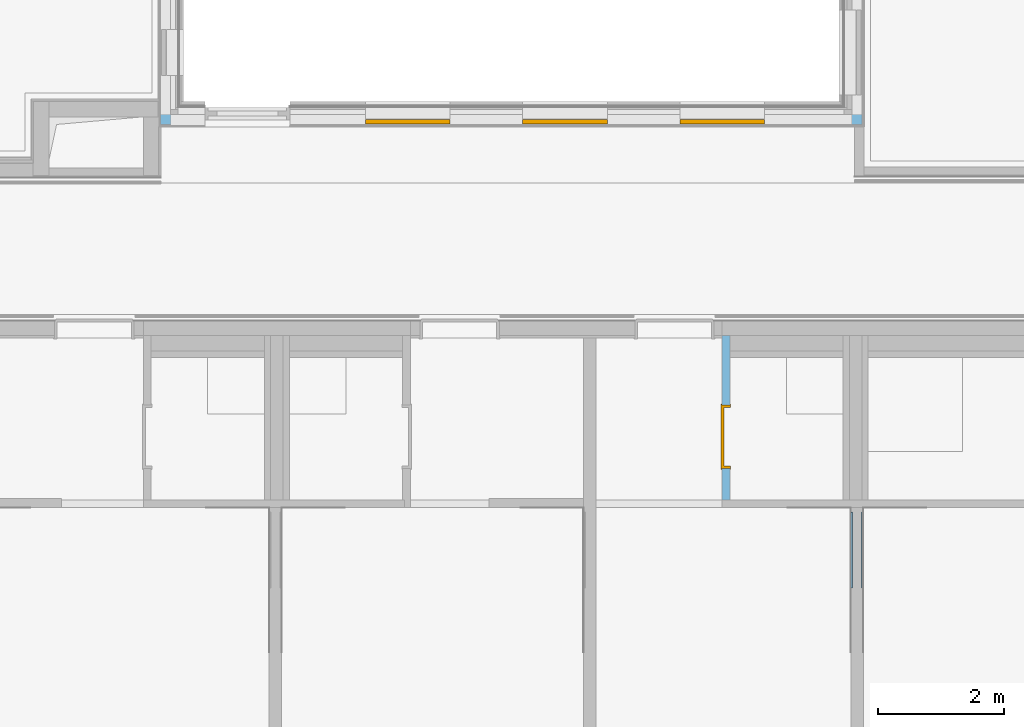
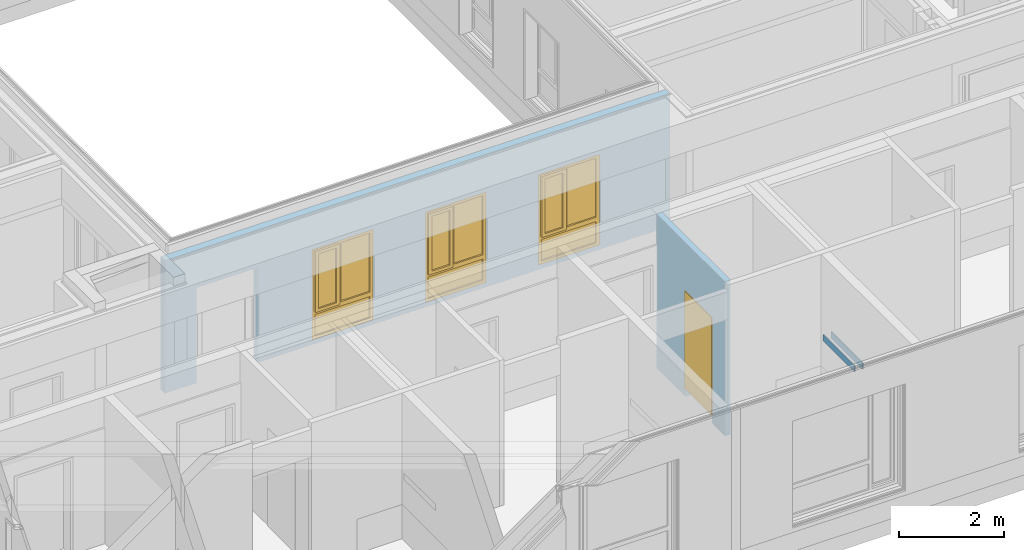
# One storey, part 126 of 207: 3 windows, 2 walls, 1 door, 5 openings, plus 2 elements that do not belong to this part.
"""IFC4 building model written with IfcOpenShell, lengths in metres."""

import ifcopenshell
import ifcopenshell.guid

model = None  # the IFC model being written
_history = None  # IfcOwnerHistory: only IFC2X3 demands one
_inside = {}  # id of a spatial element -> (the spatial element, [elements in it])
_under = {}  # id of a project, library or spatial element -> (it, [spatial elements below it])
_declared = {}  # id of a project -> (the project, [libraries it declares])
_typed = {}  # id of a type object -> (the type object, [elements of that type])
_made_of = {}  # id of a material, layer set ... -> (it, [elements and type objects made of it])


def new_model(schema):
    """Start an empty IFC model of exactly this schema.

    Asked for "IFC4X3", IfcOpenShell would pick the latest addendum, in which some entities
    have other attributes; the version numbers below select the first issue.
    IFC2X3 requires an IfcOwnerHistory on every rooted entity: one is made here for all.
    """
    global model, _history
    if schema == "IFC4X3":
        model = ifcopenshell.file(schema_version=(4, 3, 0, 0))
    else:
        model = ifcopenshell.file(schema=schema)
    _inside.clear()
    _under.clear()
    _declared.clear()
    _typed.clear()
    _made_of.clear()
    _history = None
    if model.schema == "IFC2X3":
        org = make("IfcOrganization", Name="unknown")
        user = make(
            "IfcPersonAndOrganization",
            ThePerson=make("IfcPerson", FamilyName="unknown"),
            TheOrganization=org,
        )
        app = make(
            "IfcApplication",
            ApplicationDeveloper=org,
            Version="unknown",
            ApplicationFullName="unknown",
            ApplicationIdentifier="unknown",
        )
        _history = make(
            "IfcOwnerHistory",
            OwningUser=user,
            OwningApplication=app,
            ChangeAction="ADDED",
            CreationDate=0,
        )
    return model


def make(cls, **values):
    """One entity of the class cls with the attributes given. An attribute that is None is left unset."""
    return model.create_entity(
        cls, **{name: value for name, value in values.items() if value is not None}
    )


def entity(cls, *values):
    """Any entity or typed value of the class cls, its attributes in the order of the schema. None: left unset."""
    e = model.create_entity(cls)
    for i, value in enumerate(values):
        if value is not None:
            e[i] = value
    return e


def rooted(cls, **values):
    """An entity with a GlobalId (a new one), such as an element, a storey or a relation."""
    return make(cls, GlobalId=ifcopenshell.guid.new(), OwnerHistory=_history, **values)


def si_unit(unit_type, name, prefix=None):
    """IfcSIUnit, for example si_unit("LENGTHUNIT", "METRE", prefix="MILLI")."""
    return make("IfcSIUnit", UnitType=unit_type, Prefix=prefix, Name=name)


def converted_unit(unit_type, name, factor, base, dimensions=None, offset=None):
    """IfcConversionBasedUnit, such as the inch: factor (a typed value) times the base unit."""
    return make(
        "IfcConversionBasedUnit"
        if offset is None
        else "IfcConversionBasedUnitWithOffset",
        ConversionOffset=offset,
        Dimensions=None
        if dimensions is None
        else entity("IfcDimensionalExponents", *dimensions),
        UnitType=unit_type,
        Name=name,
        ConversionFactor=make(
            "IfcMeasureWithUnit", ValueComponent=factor, UnitComponent=base
        ),
    )


def derived_unit(unit_type, elements):
    """IfcDerivedUnit: a product of units, each with its exponent."""
    return make(
        "IfcDerivedUnit",
        Elements=[
            make("IfcDerivedUnitElement", Unit=unit, Exponent=power)
            for unit, power in elements
        ],
        UnitType=unit_type,
    )


def assignment(units):
    """IfcUnitAssignment: the units of a project."""
    return None if units is None else make("IfcUnitAssignment", Units=units)


def point(xyz):
    """IfcCartesianPoint."""
    return None if xyz is None else make("IfcCartesianPoint", Coordinates=xyz)


def direction(xyz):
    """IfcDirection."""
    return None if xyz is None else make("IfcDirection", DirectionRatios=xyz)


def frame(location, z_axis=None, x_axis=None):
    """IfcAxis2Placement3D, a coordinate frame: its origin and axes. An axis left out is left unset."""
    return make(
        "IfcAxis2Placement3D",
        Location=point(location),
        Axis=direction(z_axis),
        RefDirection=direction(x_axis),
    )


def frame_2d(location, x_axis=None):
    """IfcAxis2Placement2D, a coordinate frame in the plane: its origin and x axis."""
    return make(
        "IfcAxis2Placement2D", Location=point(location), RefDirection=direction(x_axis)
    )


def origin():
    """The frame at (0, 0, 0) with its axes left unset."""
    return frame((0.0, 0.0, 0.0))


def origin_with_axes():
    """The frame at (0, 0, 0) with the z axis (0, 0, 1) and the x axis (1, 0, 0) written out."""
    return frame((0.0, 0.0, 0.0), z_axis=(0.0, 0.0, 1.0), x_axis=(1.0, 0.0, 0.0))


def place(relative_to, where):
    """IfcLocalPlacement: puts the frame where relative to a parent placement (None: the world)."""
    return make(
        "IfcLocalPlacement", PlacementRelTo=relative_to, RelativePlacement=where
    )


def context(
    kind, dimensions, precision=None, world=None, true_north=None, identifier=None
):
    """IfcGeometricRepresentationContext, for example the 3D "Model" context."""
    return make(
        "IfcGeometricRepresentationContext",
        ContextIdentifier=identifier,
        ContextType=kind,
        CoordinateSpaceDimension=dimensions,
        Precision=precision,
        WorldCoordinateSystem=world,
        TrueNorth=true_north,
    )


def subcontext(parent, identifier, kind, view, scale=None):
    """IfcGeometricRepresentationSubContext, for example "Body" below "Model"."""
    return make(
        "IfcGeometricRepresentationSubContext",
        ContextIdentifier=identifier,
        ContextType=kind,
        ParentContext=parent,
        TargetScale=scale,
        TargetView=view,
    )


def project(units=None, contexts=None):
    """IfcProject with its units and contexts."""
    return rooted(
        "IfcProject",
        Name="project",
        RepresentationContexts=contexts,
        UnitsInContext=assignment(units),
    )


def spatial(cls, under=None, at=None, **own):
    """A site, building, storey or space (cls), placed at a placement, below another one or the project."""
    s = rooted(cls, ObjectPlacement=at, **own)
    if under is not None:
        _under.setdefault(under.id(), (under, []))[1].append(s)
    return s


def polyline(points):
    """IfcPolyline through the points."""
    return make("IfcPolyline", Points=[point(p) for p in points])


def profile(cls, at=None, kind="AREA", **sizes):
    """A parametric profile (cls). Its sizes go by their IFC names, for example OverallWidth=200.0."""
    return make(cls, ProfileType=kind, Position=at, **sizes)


def rectangle(**sizes):
    """IfcRectangleProfileDef."""
    return profile("IfcRectangleProfileDef", **sizes)


def outline(outer, holes=None, kind="AREA"):
    """IfcArbitraryClosedProfileDef: a profile drawn as a closed curve; with holes, ...WithVoids."""
    if holes is None:
        return make("IfcArbitraryClosedProfileDef", ProfileType=kind, OuterCurve=outer)
    return make(
        "IfcArbitraryProfileDefWithVoids",
        ProfileType=kind,
        OuterCurve=outer,
        InnerCurves=holes,
    )


def extrude(swept, where, along, depth):
    """IfcExtrudedAreaSolid: the profile swept, set in the frame where, extruded along a direction by depth."""
    return make(
        "IfcExtrudedAreaSolid",
        SweptArea=swept,
        Position=where,
        ExtrudedDirection=direction(along),
        Depth=depth,
    )


def faces_of(points, faces, orient=None, outer=None):
    """IfcFace entities. A face is a list of loops; a loop is a list of indices into points, from 0.

    orient and outer hold one flag for each loop. By default every Orientation is true, the
    first loop of a face is its IfcFaceOuterBound and the others are IfcFaceBound.
    """
    made = []
    for i, loops in enumerate(faces):
        bounds = []
        for j, loop in enumerate(loops):
            is_outer = j == 0 if outer is None else outer[i][j]
            bounds.append(
                make(
                    "IfcFaceOuterBound" if is_outer else "IfcFaceBound",
                    Bound=make("IfcPolyLoop", Polygon=[points[k] for k in loop]),
                    Orientation=True if orient is None else orient[i][j],
                )
            )
        made.append(make("IfcFace", Bounds=bounds))
    return made


def closed_shell(faces, orient=None, outer=None):
    """The faces of one IfcClosedShell. faceted_brep and surface_model build it on their shared points."""
    return ("IfcClosedShell", faces, orient, outer)


def open_shell(faces, orient=None, outer=None):
    """The faces of one IfcOpenShell. surface_model builds it on its shared points."""
    return ("IfcOpenShell", faces, orient, outer)


def faceted_brep(points, faces, orient=None, outer=None, voids=None):
    """IfcFacetedBrep: a solid bounded by flat faces; with voids (closed shells), ...WithVoids."""
    shared = [point(p) for p in points]
    hull = make("IfcClosedShell", CfsFaces=faces_of(shared, faces, orient, outer))
    if voids is None:
        return make("IfcFacetedBrep", Outer=hull)
    return make(
        "IfcFacetedBrepWithVoids",
        Outer=hull,
        Voids=[
            make(cls, CfsFaces=faces_of(shared, fs, o, b)) for cls, fs, o, b in voids
        ],
    )


def surface_model(cls, points, shells):
    """IfcFaceBasedSurfaceModel or IfcShellBasedSurfaceModel (cls): surfaces that need not close."""
    shared = [point(p) for p in points]
    made = [make(c, CfsFaces=faces_of(shared, fs, o, b)) for c, fs, o, b in shells]
    if cls == "IfcFaceBasedSurfaceModel":
        return make(cls, FbsmFaces=made)
    return make(cls, SbsmBoundary=made)


def shape(context_of_items, identifier, shape_type, items):
    """IfcShapeRepresentation: the items that make up one representation, for example the "Body"."""
    return make(
        "IfcShapeRepresentation",
        ContextOfItems=context_of_items,
        RepresentationIdentifier=identifier,
        RepresentationType=shape_type,
        Items=items,
    )


def source(mapping_origin, context_of_items, identifier, shape_type, items):
    """IfcRepresentationMap: a shape defined once, which mapped items show again and again."""
    return make(
        "IfcRepresentationMap",
        MappingOrigin=mapping_origin,
        MappedRepresentation=shape(context_of_items, identifier, shape_type, items),
    )


def transform(
    local_origin,
    x_axis=None,
    y_axis=None,
    z_axis=None,
    scale=None,
    scale2=None,
    scale3=None,
    uniform=True,
):
    """IfcCartesianTransformationOperator3D, or its non-uniform kind. x_axis, y_axis, z_axis: its Axis1, 2, 3."""
    if uniform:
        return make(
            "IfcCartesianTransformationOperator3D",
            Axis1=direction(x_axis),
            Axis2=direction(y_axis),
            LocalOrigin=point(local_origin),
            Scale=scale,
            Axis3=direction(z_axis),
        )
    return make(
        "IfcCartesianTransformationOperator3DnonUniform",
        Axis1=direction(x_axis),
        Axis2=direction(y_axis),
        LocalOrigin=point(local_origin),
        Scale=scale,
        Axis3=direction(z_axis),
        Scale2=scale2,
        Scale3=scale3,
    )


def mapped(mapping_source, mapping_target):
    """IfcMappedItem: shows the shape of a source again, moved by a transform."""
    return make(
        "IfcMappedItem", MappingSource=mapping_source, MappingTarget=mapping_target
    )


def material(Name=None, Category=None):
    """IfcMaterial."""
    return make("IfcMaterial", Name=Name, Category=Category)


def made_of(thing, what):
    """Note that an element or type object is made of a material, layer set ...; save() writes the relation."""
    if what is not None:
        _made_of.setdefault(what.id(), (what, []))[1].append(thing)
    return thing


def type_object(cls, material=None, **own):
    """A type object (cls), such as IfcWallType, which elements share."""
    return made_of(rooted(cls, **own), material)


def element(
    cls,
    number,
    at=None,
    inside=None,
    cuts=None,
    type_object=None,
    material=None,
    context=None,
    identifier="Body",
    shape_type=None,
    held_by="IfcProductDefinitionShape",
    body=None,
    shapes=None,
    **own,
):
    """One element of the class cls, such as IfcWall. Its Tag is "e" and its number.

    at: its placement. inside: the storey or other place that contains it. cuts: it is an
    opening in that element (IfcRelVoidsElement). A single representation is given by context,
    identifier, shape_type and body (its items); several are given by shapes. held_by: the class
    of the entity that holds the representations. save() writes the other relations.
    """
    e = rooted(cls, Tag="e%d" % number, ObjectPlacement=at, **own)
    if body is not None:
        shapes = [shape(context, identifier, shape_type, body)]
    if shapes is not None:
        e.Representation = make(held_by, Representations=shapes)
    if inside is not None:
        _inside.setdefault(inside.id(), (inside, []))[1].append(e)
    if cuts is not None:
        rooted(
            "IfcRelVoidsElement", RelatingBuildingElement=cuts, RelatedOpeningElement=e
        )
    if type_object is not None:
        _typed.setdefault(type_object.id(), (type_object, []))[1].append(e)
    return made_of(e, material)


def fill(opening, filler):
    """IfcRelFillsElement: the door or window that sits in an opening."""
    return rooted(
        "IfcRelFillsElement",
        RelatingOpeningElement=opening,
        RelatedBuildingElement=filler,
    )


def aggregate(whole, parts):
    """IfcRelAggregates: a whole, such as a stair, and the parts it consists of."""
    return rooted("IfcRelAggregates", RelatingObject=whole, RelatedObjects=parts)


def save(model, path):
    """Write the relations noted so far, then the file.

    IfcRelAggregates (storeys below a building ...), IfcRelContainedInSpatialStructure (elements
    in a storey), IfcRelDefinesByType, IfcRelAssociatesMaterial and IfcRelDeclares: one each for
    every whole, place, type object, material and project.
    """
    for whole, parts in _under.values():
        aggregate(whole, parts)
    for where, things in _inside.values():
        rooted(
            "IfcRelContainedInSpatialStructure",
            RelatedElements=things,
            RelatingStructure=where,
        )
    for kind, things in _typed.values():
        rooted("IfcRelDefinesByType", RelatedObjects=things, RelatingType=kind)
    for what, things in _made_of.values():
        rooted("IfcRelAssociatesMaterial", RelatedObjects=things, RelatingMaterial=what)
    for by, libraries in _declared.values():
        rooted("IfcRelDeclares", RelatingContext=by, RelatedDefinitions=libraries)
    model.write(path)


model = new_model("IFC4")

# Units and contexts
model_context = context("Model", 3, precision=1e-05, world=origin())
body_context = subcontext(model_context, "Body", "Model", "MODEL_VIEW")
ifc_project = project(units=[si_unit("LENGTHUNIT", "METRE"), si_unit("AREAUNIT", "SQUARE_METRE"), si_unit("VOLUMEUNIT", "CUBIC_METRE"), si_unit("MASSUNIT", "GRAM", prefix="KILO"), converted_unit("PLANEANGLEUNIT", "DEGREE", entity("IfcPlaneAngleMeasure", 0.0174532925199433), si_unit("PLANEANGLEUNIT", "RADIAN"), dimensions=[0, 0, 0, 0, 0, 0, 0]), derived_unit("THERMALTRANSMITTANCEUNIT", [(si_unit("POWERUNIT", "WATT"), 1), (si_unit("THERMODYNAMICTEMPERATUREUNIT", "KELVIN"), -1), (si_unit("LENGTHUNIT", "METRE"), -2)]), derived_unit("VOLUMETRICFLOWRATEUNIT", [(si_unit("LENGTHUNIT", "METRE"), 3), (converted_unit("TIMEUNIT", "hour", entity("IfcTimeMeasure", 3600.0), si_unit("TIMEUNIT", "SECOND"), dimensions=[0, 0, 1, 0, 0, 0, 0]), -1), (si_unit("LENGTHUNIT", "METRE"), -1)])], contexts=[model_context])

# Site, building, storey
site_placement = place(None, origin())
site = spatial("IfcSite", under=ifc_project, at=site_placement, Name="Psychiatrie Neubau Wunstorf", CompositionType="ELEMENT")
building_placement = place(site_placement, origin())
building = spatial("IfcBuilding", under=site, at=building_placement, Name="Neubau H2 Stationsgebäude", CompositionType="ELEMENT")
storey_placement = place(building_placement, frame((0.0, 0.0, -0.2)))
storey = spatial("IfcBuildingStorey", under=building, at=storey_placement, Name="H2 Ebene 0", CompositionType="ELEMENT", Elevation=-0.2)

# Wall, openings, windows
ifc_material_1 = material(Name="WA-HD")
wall_1_placement = place(storey_placement, frame((79.175, 8.45000000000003, 0.5), z_axis=(0.0, 0.0, 1.0), x_axis=(1.0, -1.63138063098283e-16, 0.0)))
wall_1 = element("IfcWall", 1, at=wall_1_placement, inside=storey, material=ifc_material_1, context=body_context, shape_type="SweptSolid", body=[
    extrude(rectangle(XDim=11.15, YDim=0.16, at=frame_2d((5.575, 0.08), x_axis=(1.0, 0.0))), origin_with_axes(), (0.0, 0.0, 1.0), 3.1),
])
opening_1_placement = place(wall_1_placement, frame((9.6047, 0.16, 0.1), z_axis=(0.0, -1.0, 0.0), x_axis=(0.0, 0.0, 1.0)))
opening_1 = element("IfcOpeningElement", 2, at=opening_1_placement, cuts=wall_1, Name="Fensteröffnung", ObjectType="Opening", context=body_context, shape_type="SweptSolid", body=[
    extrude(outline(polyline([(2.12, 1.35), (2.12, 0.0), (0.0, 0.0), (0.0, 1.35), (2.12, 1.35)])), origin_with_axes(), (0.0, 0.0, 1.0), 0.16),
])
opening_2_placement = place(wall_1_placement, frame((7.1047, 0.159999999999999, 0.1), z_axis=(0.0, -1.0, 0.0), x_axis=(0.0, 0.0, 1.0)))
opening_2 = element("IfcOpeningElement", 3, at=opening_2_placement, cuts=wall_1, Name="Fensteröffnung", ObjectType="Opening", context=body_context, shape_type="SweptSolid", body=[
    extrude(outline(polyline([(2.12, 1.35), (2.12, 0.0), (0.0, 0.0), (0.0, 1.35), (2.12, 1.35)])), origin_with_axes(), (0.0, 0.0, 1.0), 0.16),
])
opening_3_placement = place(wall_1_placement, frame((4.6047, 0.160000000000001, 0.1), z_axis=(0.0, -1.0, 0.0), x_axis=(0.0, 0.0, 1.0)))
opening_3 = element("IfcOpeningElement", 4, at=opening_3_placement, cuts=wall_1, Name="Fensteröffnung", ObjectType="Opening", context=body_context, shape_type="SweptSolid", body=[
    extrude(outline(polyline([(2.12, 1.35), (2.12, 0.0), (0.0, 0.0), (0.0, 1.35), (2.12, 1.35)])), origin_with_axes(), (0.0, 0.0, 1.0), 0.16),
])
opening_4_placement = place(wall_1_placement, frame((2.05600000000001, 0.16, -0.5), z_axis=(0.0, -1.0, 0.0), x_axis=(0.0, 0.0, 1.0)))
element("IfcOpeningElement", 5, at=opening_4_placement, cuts=wall_1, Name="Türöffnung", ObjectType="Opening", context=body_context, shape_type="SweptSolid", body=[
    extrude(outline(polyline([(2.72, 1.35), (2.72, 0.0), (0.0, 0.0), (0.0, 1.35), (2.72, 1.35)])), origin_with_axes(), (0.0, 0.0, 1.0), 0.16),
])
shared_shape_1 = source(origin_with_axes(), body_context, "Body", "SurfaceModel", [
    surface_model("IfcShellBasedSurfaceModel", [(0.0, 0.0, 2.12), (0.07, 0.0, 2.12), (0.07, 0.0, 0.0), (0.0, 0.0, 0.0), (0.0, 0.07, 0.0), (0.07, 0.07, 0.0), (0.07, 0.07, 2.12), (0.0, 0.07, 2.12)], [closed_shell([[[0, 1, 2, 3]], [[4, 5, 6, 7]], [[3, 4, 7, 0]], [[2, 5, 4, 3]], [[1, 6, 5, 2]], [[0, 7, 6, 1]]], orient=[[False], [False], [False], [False], [False], [False]])]),
    surface_model("IfcShellBasedSurfaceModel", [(1.28, 0.0, 2.12), (1.35, 0.0, 2.12), (1.35, 0.0, 0.0), (1.28, 0.0, 0.0), (1.28, 0.07, 0.0), (1.35, 0.07, 0.0), (1.35, 0.07, 2.12), (1.28, 0.07, 2.12)], [closed_shell([[[0, 1, 2, 3]], [[4, 5, 6, 7]], [[3, 4, 7, 0]], [[2, 5, 4, 3]], [[1, 6, 5, 2]], [[0, 7, 6, 1]]], orient=[[False], [False], [False], [False], [False], [False]])]),
    surface_model("IfcShellBasedSurfaceModel", [(0.07, 0.0, 0.07), (1.28, 0.0, 0.07), (1.28, 0.0, 0.0), (0.07, 0.0, 0.0), (0.07, 0.07, 0.0), (1.28, 0.07, 0.0), (1.28, 0.07, 0.07), (0.07, 0.07, 0.07)], [closed_shell([[[0, 1, 2, 3]], [[4, 5, 6, 7]], [[3, 4, 7, 0]], [[2, 5, 4, 3]], [[1, 6, 5, 2]], [[0, 7, 6, 1]]], orient=[[False], [False], [False], [False], [False], [False]])]),
    surface_model("IfcShellBasedSurfaceModel", [(0.07, 0.0, 2.12), (1.28, 0.0, 2.12), (1.28, 0.0, 2.05), (0.07, 0.0, 2.05), (0.07, 0.07, 2.05), (1.28, 0.07, 2.05), (1.28, 0.07, 2.12), (0.07, 0.07, 2.12)], [closed_shell([[[0, 1, 2, 3]], [[4, 5, 6, 7]], [[3, 4, 7, 0]], [[2, 5, 4, 3]], [[1, 6, 5, 2]], [[0, 7, 6, 1]]], orient=[[False], [False], [False], [False], [False], [False]])]),
    surface_model("IfcShellBasedSurfaceModel", [(0.07, 0.0, 0.67), (1.28, 0.0, 0.67), (1.28, 0.0, 0.57), (0.07, 0.0, 0.57), (0.07, 0.07, 0.57), (1.28, 0.07, 0.57), (1.28, 0.07, 0.67), (0.07, 0.07, 0.67)], [closed_shell([[[0, 1, 2, 3]], [[4, 5, 6, 7]], [[3, 4, 7, 0]], [[2, 5, 4, 3]], [[1, 6, 5, 2]], [[0, 7, 6, 1]]], orient=[[False], [False], [False], [False], [False], [False]])]),
    surface_model("IfcShellBasedSurfaceModel", [(0.07, 0.035, 0.07), (0.07, 0.035, 0.57), (1.28, 0.035, 0.57), (1.28, 0.035, 0.07)], [open_shell([[[0, 1, 2, 3]]], orient=[[False]])]),
    surface_model("IfcShellBasedSurfaceModel", [(0.57, 0.0, 2.05), (0.64, 0.0, 2.05), (0.64, 0.0, 0.67), (0.57, 0.0, 0.67), (0.57, 0.07, 0.67), (0.64, 0.07, 0.67), (0.64, 0.07, 2.05), (0.57, 0.07, 2.05)], [closed_shell([[[0, 1, 2, 3]], [[4, 5, 6, 7]], [[3, 4, 7, 0]], [[2, 5, 4, 3]], [[1, 6, 5, 2]], [[0, 7, 6, 1]]], orient=[[False], [False], [False], [False], [False], [False]])]),
    surface_model("IfcShellBasedSurfaceModel", [(0.05, -0.05, 2.07), (0.12, -0.05, 2.07), (0.12, -0.05, 0.65), (0.05, -0.05, 0.65), (0.05, 0.02, 0.65), (0.12, 0.02, 0.65), (0.12, 0.02, 2.07), (0.05, 0.02, 2.07)], [closed_shell([[[0, 1, 2, 3]], [[4, 5, 6, 7]], [[3, 4, 7, 0]], [[2, 5, 4, 3]], [[1, 6, 5, 2]], [[0, 7, 6, 1]]], orient=[[False], [False], [False], [False], [False], [False]])]),
    surface_model("IfcShellBasedSurfaceModel", [(0.52, -0.05, 2.07), (0.59, -0.05, 2.07), (0.59, -0.05, 0.65), (0.52, -0.05, 0.65), (0.52, 0.02, 0.65), (0.59, 0.02, 0.65), (0.59, 0.02, 2.07), (0.52, 0.02, 2.07)], [closed_shell([[[0, 1, 2, 3]], [[4, 5, 6, 7]], [[3, 4, 7, 0]], [[2, 5, 4, 3]], [[1, 6, 5, 2]], [[0, 7, 6, 1]]], orient=[[False], [False], [False], [False], [False], [False]])]),
    surface_model("IfcShellBasedSurfaceModel", [(0.12, -0.05, 0.72), (0.52, -0.05, 0.72), (0.52, -0.05, 0.65), (0.12, -0.05, 0.65), (0.12, 0.02, 0.65), (0.52, 0.02, 0.65), (0.52, 0.02, 0.72), (0.12, 0.02, 0.72)], [closed_shell([[[0, 1, 2, 3]], [[4, 5, 6, 7]], [[3, 4, 7, 0]], [[2, 5, 4, 3]], [[1, 6, 5, 2]], [[0, 7, 6, 1]]], orient=[[False], [False], [False], [False], [False], [False]])]),
    surface_model("IfcShellBasedSurfaceModel", [(0.12, -0.05, 2.07), (0.52, -0.05, 2.07), (0.52, -0.05, 2.0), (0.12, -0.05, 2.0), (0.12, 0.02, 2.0), (0.52, 0.02, 2.0), (0.52, 0.02, 2.07), (0.12, 0.02, 2.07)], [closed_shell([[[0, 1, 2, 3]], [[4, 5, 6, 7]], [[3, 4, 7, 0]], [[2, 5, 4, 3]], [[1, 6, 5, 2]], [[0, 7, 6, 1]]], orient=[[False], [False], [False], [False], [False], [False]])]),
    surface_model("IfcShellBasedSurfaceModel", [(0.64, 0.035, 0.67), (0.64, 0.035, 2.05), (1.28, 0.035, 2.05), (1.28, 0.035, 0.67)], [open_shell([[[0, 1, 2, 3]]], orient=[[False]])]),
    surface_model("IfcShellBasedSurfaceModel", [(0.12, -0.015, 0.72), (0.12, -0.015, 2.0), (0.52, -0.015, 2.0), (0.52, -0.015, 0.72)], [open_shell([[[0, 1, 2, 3]]], orient=[[False]])]),
])
window_1_placement = place(opening_1_placement, frame((0.0, 1.35, 0.146), z_axis=(1.0, 0.0, 0.0), x_axis=(0.0, -1.0, -1.63138063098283e-16)))
window_1 = element("IfcWindow", 6, at=window_1_placement, inside=storey, Name="Fenster", OverallHeight=2.12, OverallWidth=1.35, PartitioningType="USERDEFINED", PredefinedType="WINDOW", context=body_context, shape_type="MappedRepresentation", body=[
    mapped(shared_shape_1, transform((0.0, 0.0, 0.0), x_axis=(1.0, 0.0, 0.0), y_axis=(0.0, 1.0, 0.0), z_axis=(0.0, 0.0, 1.0), scale=1.0)),
])
fill(opening_1, window_1)
shared_shape_2 = source(origin_with_axes(), body_context, "Body", "SurfaceModel", [
    surface_model("IfcShellBasedSurfaceModel", [(0.0, 0.0, 2.12), (0.07, 0.0, 2.12), (0.07, 0.0, 0.0), (0.0, 0.0, 0.0), (0.0, 0.07, 0.0), (0.07, 0.07, 0.0), (0.07, 0.07, 2.12), (0.0, 0.07, 2.12)], [closed_shell([[[0, 1, 2, 3]], [[4, 5, 6, 7]], [[3, 4, 7, 0]], [[2, 5, 4, 3]], [[1, 6, 5, 2]], [[0, 7, 6, 1]]], orient=[[False], [False], [False], [False], [False], [False]])]),
    surface_model("IfcShellBasedSurfaceModel", [(1.28, 0.0, 2.12), (1.35, 0.0, 2.12), (1.35, 0.0, 0.0), (1.28, 0.0, 0.0), (1.28, 0.07, 0.0), (1.35, 0.07, 0.0), (1.35, 0.07, 2.12), (1.28, 0.07, 2.12)], [closed_shell([[[0, 1, 2, 3]], [[4, 5, 6, 7]], [[3, 4, 7, 0]], [[2, 5, 4, 3]], [[1, 6, 5, 2]], [[0, 7, 6, 1]]], orient=[[False], [False], [False], [False], [False], [False]])]),
    surface_model("IfcShellBasedSurfaceModel", [(0.07, 0.0, 0.07), (1.28, 0.0, 0.07), (1.28, 0.0, 0.0), (0.07, 0.0, 0.0), (0.07, 0.07, 0.0), (1.28, 0.07, 0.0), (1.28, 0.07, 0.07), (0.07, 0.07, 0.07)], [closed_shell([[[0, 1, 2, 3]], [[4, 5, 6, 7]], [[3, 4, 7, 0]], [[2, 5, 4, 3]], [[1, 6, 5, 2]], [[0, 7, 6, 1]]], orient=[[False], [False], [False], [False], [False], [False]])]),
    surface_model("IfcShellBasedSurfaceModel", [(0.07, 0.0, 2.12), (1.28, 0.0, 2.12), (1.28, 0.0, 2.05), (0.07, 0.0, 2.05), (0.07, 0.07, 2.05), (1.28, 0.07, 2.05), (1.28, 0.07, 2.12), (0.07, 0.07, 2.12)], [closed_shell([[[0, 1, 2, 3]], [[4, 5, 6, 7]], [[3, 4, 7, 0]], [[2, 5, 4, 3]], [[1, 6, 5, 2]], [[0, 7, 6, 1]]], orient=[[False], [False], [False], [False], [False], [False]])]),
    surface_model("IfcShellBasedSurfaceModel", [(0.07, 0.0, 0.67), (1.28, 0.0, 0.67), (1.28, 0.0, 0.57), (0.07, 0.0, 0.57), (0.07, 0.07, 0.57), (1.28, 0.07, 0.57), (1.28, 0.07, 0.67), (0.07, 0.07, 0.67)], [closed_shell([[[0, 1, 2, 3]], [[4, 5, 6, 7]], [[3, 4, 7, 0]], [[2, 5, 4, 3]], [[1, 6, 5, 2]], [[0, 7, 6, 1]]], orient=[[False], [False], [False], [False], [False], [False]])]),
    surface_model("IfcShellBasedSurfaceModel", [(0.07, 0.035, 0.07), (0.07, 0.035, 0.57), (1.28, 0.035, 0.57), (1.28, 0.035, 0.07)], [open_shell([[[0, 1, 2, 3]]], orient=[[False]])]),
    surface_model("IfcShellBasedSurfaceModel", [(0.57, 0.0, 2.05), (0.64, 0.0, 2.05), (0.64, 0.0, 0.67), (0.57, 0.0, 0.67), (0.57, 0.07, 0.67), (0.64, 0.07, 0.67), (0.64, 0.07, 2.05), (0.57, 0.07, 2.05)], [closed_shell([[[0, 1, 2, 3]], [[4, 5, 6, 7]], [[3, 4, 7, 0]], [[2, 5, 4, 3]], [[1, 6, 5, 2]], [[0, 7, 6, 1]]], orient=[[False], [False], [False], [False], [False], [False]])]),
    surface_model("IfcShellBasedSurfaceModel", [(0.05, -0.05, 2.07), (0.12, -0.05, 2.07), (0.12, -0.05, 0.65), (0.05, -0.05, 0.65), (0.05, 0.02, 0.65), (0.12, 0.02, 0.65), (0.12, 0.02, 2.07), (0.05, 0.02, 2.07)], [closed_shell([[[0, 1, 2, 3]], [[4, 5, 6, 7]], [[3, 4, 7, 0]], [[2, 5, 4, 3]], [[1, 6, 5, 2]], [[0, 7, 6, 1]]], orient=[[False], [False], [False], [False], [False], [False]])]),
    surface_model("IfcShellBasedSurfaceModel", [(0.52, -0.05, 2.07), (0.59, -0.05, 2.07), (0.59, -0.05, 0.65), (0.52, -0.05, 0.65), (0.52, 0.02, 0.65), (0.59, 0.02, 0.65), (0.59, 0.02, 2.07), (0.52, 0.02, 2.07)], [closed_shell([[[0, 1, 2, 3]], [[4, 5, 6, 7]], [[3, 4, 7, 0]], [[2, 5, 4, 3]], [[1, 6, 5, 2]], [[0, 7, 6, 1]]], orient=[[False], [False], [False], [False], [False], [False]])]),
    surface_model("IfcShellBasedSurfaceModel", [(0.12, -0.05, 0.72), (0.52, -0.05, 0.72), (0.52, -0.05, 0.65), (0.12, -0.05, 0.65), (0.12, 0.02, 0.65), (0.52, 0.02, 0.65), (0.52, 0.02, 0.72), (0.12, 0.02, 0.72)], [closed_shell([[[0, 1, 2, 3]], [[4, 5, 6, 7]], [[3, 4, 7, 0]], [[2, 5, 4, 3]], [[1, 6, 5, 2]], [[0, 7, 6, 1]]], orient=[[False], [False], [False], [False], [False], [False]])]),
    surface_model("IfcShellBasedSurfaceModel", [(0.12, -0.05, 2.07), (0.52, -0.05, 2.07), (0.52, -0.05, 2.0), (0.12, -0.05, 2.0), (0.12, 0.02, 2.0), (0.52, 0.02, 2.0), (0.52, 0.02, 2.07), (0.12, 0.02, 2.07)], [closed_shell([[[0, 1, 2, 3]], [[4, 5, 6, 7]], [[3, 4, 7, 0]], [[2, 5, 4, 3]], [[1, 6, 5, 2]], [[0, 7, 6, 1]]], orient=[[False], [False], [False], [False], [False], [False]])]),
    surface_model("IfcShellBasedSurfaceModel", [(0.64, 0.035, 0.67), (0.64, 0.035, 2.05), (1.28, 0.035, 2.05), (1.28, 0.035, 0.67)], [open_shell([[[0, 1, 2, 3]]], orient=[[False]])]),
    surface_model("IfcShellBasedSurfaceModel", [(0.12, -0.015, 0.72), (0.12, -0.015, 2.0), (0.52, -0.015, 2.0), (0.52, -0.015, 0.72)], [open_shell([[[0, 1, 2, 3]]], orient=[[False]])]),
])
window_2_placement = place(opening_2_placement, frame((0.0, 1.35, 0.146), z_axis=(1.0, 0.0, 0.0), x_axis=(0.0, -1.0, -1.63138063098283e-16)))
window_2 = element("IfcWindow", 7, at=window_2_placement, inside=storey, Name="Fenster", OverallHeight=2.12, OverallWidth=1.35, PartitioningType="USERDEFINED", PredefinedType="WINDOW", context=body_context, shape_type="MappedRepresentation", body=[
    mapped(shared_shape_2, transform((0.0, 0.0, 0.0), x_axis=(1.0, 0.0, 0.0), y_axis=(0.0, 1.0, 0.0), z_axis=(0.0, 0.0, 1.0), scale=1.0)),
])
fill(opening_2, window_2)
shared_shape_3 = source(origin_with_axes(), body_context, "Body", "SurfaceModel", [
    surface_model("IfcShellBasedSurfaceModel", [(0.0, 0.0, 2.12), (0.07, 0.0, 2.12), (0.07, 0.0, 0.0), (0.0, 0.0, 0.0), (0.0, 0.07, 0.0), (0.07, 0.07, 0.0), (0.07, 0.07, 2.12), (0.0, 0.07, 2.12)], [closed_shell([[[0, 1, 2, 3]], [[4, 5, 6, 7]], [[3, 4, 7, 0]], [[2, 5, 4, 3]], [[1, 6, 5, 2]], [[0, 7, 6, 1]]], orient=[[False], [False], [False], [False], [False], [False]])]),
    surface_model("IfcShellBasedSurfaceModel", [(1.28, 0.0, 2.12), (1.35, 0.0, 2.12), (1.35, 0.0, 0.0), (1.28, 0.0, 0.0), (1.28, 0.07, 0.0), (1.35, 0.07, 0.0), (1.35, 0.07, 2.12), (1.28, 0.07, 2.12)], [closed_shell([[[0, 1, 2, 3]], [[4, 5, 6, 7]], [[3, 4, 7, 0]], [[2, 5, 4, 3]], [[1, 6, 5, 2]], [[0, 7, 6, 1]]], orient=[[False], [False], [False], [False], [False], [False]])]),
    surface_model("IfcShellBasedSurfaceModel", [(0.07, 0.0, 0.07), (1.28, 0.0, 0.07), (1.28, 0.0, 0.0), (0.07, 0.0, 0.0), (0.07, 0.07, 0.0), (1.28, 0.07, 0.0), (1.28, 0.07, 0.07), (0.07, 0.07, 0.07)], [closed_shell([[[0, 1, 2, 3]], [[4, 5, 6, 7]], [[3, 4, 7, 0]], [[2, 5, 4, 3]], [[1, 6, 5, 2]], [[0, 7, 6, 1]]], orient=[[False], [False], [False], [False], [False], [False]])]),
    surface_model("IfcShellBasedSurfaceModel", [(0.07, 0.0, 2.12), (1.28, 0.0, 2.12), (1.28, 0.0, 2.05), (0.07, 0.0, 2.05), (0.07, 0.07, 2.05), (1.28, 0.07, 2.05), (1.28, 0.07, 2.12), (0.07, 0.07, 2.12)], [closed_shell([[[0, 1, 2, 3]], [[4, 5, 6, 7]], [[3, 4, 7, 0]], [[2, 5, 4, 3]], [[1, 6, 5, 2]], [[0, 7, 6, 1]]], orient=[[False], [False], [False], [False], [False], [False]])]),
    surface_model("IfcShellBasedSurfaceModel", [(0.07, 0.0, 0.67), (1.28, 0.0, 0.67), (1.28, 0.0, 0.57), (0.07, 0.0, 0.57), (0.07, 0.07, 0.57), (1.28, 0.07, 0.57), (1.28, 0.07, 0.67), (0.07, 0.07, 0.67)], [closed_shell([[[0, 1, 2, 3]], [[4, 5, 6, 7]], [[3, 4, 7, 0]], [[2, 5, 4, 3]], [[1, 6, 5, 2]], [[0, 7, 6, 1]]], orient=[[False], [False], [False], [False], [False], [False]])]),
    surface_model("IfcShellBasedSurfaceModel", [(0.07, 0.035, 0.07), (0.07, 0.035, 0.57), (1.28, 0.035, 0.57), (1.28, 0.035, 0.07)], [open_shell([[[0, 1, 2, 3]]], orient=[[False]])]),
    surface_model("IfcShellBasedSurfaceModel", [(0.57, 0.0, 2.05), (0.64, 0.0, 2.05), (0.64, 0.0, 0.67), (0.57, 0.0, 0.67), (0.57, 0.07, 0.67), (0.64, 0.07, 0.67), (0.64, 0.07, 2.05), (0.57, 0.07, 2.05)], [closed_shell([[[0, 1, 2, 3]], [[4, 5, 6, 7]], [[3, 4, 7, 0]], [[2, 5, 4, 3]], [[1, 6, 5, 2]], [[0, 7, 6, 1]]], orient=[[False], [False], [False], [False], [False], [False]])]),
    surface_model("IfcShellBasedSurfaceModel", [(0.05, -0.05, 2.07), (0.12, -0.05, 2.07), (0.12, -0.05, 0.65), (0.05, -0.05, 0.65), (0.05, 0.02, 0.65), (0.12, 0.02, 0.65), (0.12, 0.02, 2.07), (0.05, 0.02, 2.07)], [closed_shell([[[0, 1, 2, 3]], [[4, 5, 6, 7]], [[3, 4, 7, 0]], [[2, 5, 4, 3]], [[1, 6, 5, 2]], [[0, 7, 6, 1]]], orient=[[False], [False], [False], [False], [False], [False]])]),
    surface_model("IfcShellBasedSurfaceModel", [(0.52, -0.05, 2.07), (0.59, -0.05, 2.07), (0.59, -0.05, 0.65), (0.52, -0.05, 0.65), (0.52, 0.02, 0.65), (0.59, 0.02, 0.65), (0.59, 0.02, 2.07), (0.52, 0.02, 2.07)], [closed_shell([[[0, 1, 2, 3]], [[4, 5, 6, 7]], [[3, 4, 7, 0]], [[2, 5, 4, 3]], [[1, 6, 5, 2]], [[0, 7, 6, 1]]], orient=[[False], [False], [False], [False], [False], [False]])]),
    surface_model("IfcShellBasedSurfaceModel", [(0.12, -0.05, 0.72), (0.52, -0.05, 0.72), (0.52, -0.05, 0.65), (0.12, -0.05, 0.65), (0.12, 0.02, 0.65), (0.52, 0.02, 0.65), (0.52, 0.02, 0.72), (0.12, 0.02, 0.72)], [closed_shell([[[0, 1, 2, 3]], [[4, 5, 6, 7]], [[3, 4, 7, 0]], [[2, 5, 4, 3]], [[1, 6, 5, 2]], [[0, 7, 6, 1]]], orient=[[False], [False], [False], [False], [False], [False]])]),
    surface_model("IfcShellBasedSurfaceModel", [(0.12, -0.05, 2.07), (0.52, -0.05, 2.07), (0.52, -0.05, 2.0), (0.12, -0.05, 2.0), (0.12, 0.02, 2.0), (0.52, 0.02, 2.0), (0.52, 0.02, 2.07), (0.12, 0.02, 2.07)], [closed_shell([[[0, 1, 2, 3]], [[4, 5, 6, 7]], [[3, 4, 7, 0]], [[2, 5, 4, 3]], [[1, 6, 5, 2]], [[0, 7, 6, 1]]], orient=[[False], [False], [False], [False], [False], [False]])]),
    surface_model("IfcShellBasedSurfaceModel", [(0.64, 0.035, 0.67), (0.64, 0.035, 2.05), (1.28, 0.035, 2.05), (1.28, 0.035, 0.67)], [open_shell([[[0, 1, 2, 3]]], orient=[[False]])]),
    surface_model("IfcShellBasedSurfaceModel", [(0.12, -0.015, 0.72), (0.12, -0.015, 2.0), (0.52, -0.015, 2.0), (0.52, -0.015, 0.72)], [open_shell([[[0, 1, 2, 3]]], orient=[[False]])]),
])
window_3_placement = place(opening_3_placement, frame((0.0, 1.35, 0.146000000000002), z_axis=(1.0, 0.0, 0.0), x_axis=(0.0, -1.0, -1.63138063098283e-16)))
window_3 = element("IfcWindow", 8, at=window_3_placement, inside=storey, Name="Fenster", OverallHeight=2.12, OverallWidth=1.35, PartitioningType="USERDEFINED", PredefinedType="WINDOW", context=body_context, shape_type="MappedRepresentation", body=[
    mapped(shared_shape_3, transform((0.0, 0.0, 0.0), x_axis=(1.0, 0.0, 0.0), y_axis=(0.0, 1.0, 0.0), z_axis=(0.0, 0.0, 1.0), scale=1.0)),
])
fill(opening_3, window_3)

# Walls
for number, where, name in (
    (9, (90.3250000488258, 1.08720000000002, 1.625), "WV 1.1"),
    (10, (90.1500000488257, 1.08720000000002, 1.625), "WV 1.1"),
):
    element("IfcWall", number, at=place(storey_placement, frame(where)), inside=storey, Name=name, context=body_context, shape_type="Brep", body=[
        faceted_brep([(0.025, 1.2, 0.0), (0.0, 1.2, 0.0), (0.0, 0.0, 0.0), (0.025, 0.0, 0.0), (0.0, 1.2, 0.15), (0.025, 1.2, 0.15), (0.025, 0.0, 0.15), (0.0, 0.0, 0.15)], [[[0, 1, 2, 3]], [[4, 5, 6, 7]], [[1, 0, 5, 4]], [[2, 1, 4, 7]], [[3, 2, 7, 6]], [[0, 3, 6, 5]]], orient=[[False], [False], [False], [False], [False], [False]]),
    ])

# Wall, opening, door
ifc_material_2 = material(Name="WI-LB")
wall_2_placement = place(storey_placement, frame((88.1000000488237, 5.1005, 0.0), z_axis=(0.0, 0.0, 1.0), x_axis=(0.0, -1.0, 0.0)))
wall_2 = element("IfcWall", 11, at=wall_2_placement, inside=storey, material=ifc_material_2, context=body_context, shape_type="SweptSolid", body=[
    extrude(rectangle(XDim=2.615, YDim=0.125, at=frame_2d((1.3075, 0.0625), x_axis=(1.0, 0.0))), origin_with_axes(), (0.0, 0.0, 1.0), 3.6),
])
opening_5_placement = place(wall_2_placement, frame((2.115, 0.125, 0.0), z_axis=(0.0, -1.0, 0.0), x_axis=(0.0, 0.0, 1.0)))
opening_5 = element("IfcOpeningElement", 12, at=opening_5_placement, cuts=wall_2, Name="Türöffnung", ObjectType="Opening", context=body_context, shape_type="SweptSolid", body=[
    extrude(outline(polyline([(2.46, 1.01), (2.46, 0.0), (0.0, 0.0), (0.0, 1.01), (2.46, 1.01)])), origin_with_axes(), (0.0, 0.0, 1.0), 0.125),
])
ifc_material_3 = material(Name="TI-1F-UZ-D-N")
door_type = type_object("IfcDoorType", Name="SMT", OperationType="SINGLE_SWING_RIGHT", ParameterTakesPrecedence=False, PredefinedType="DOOR")
shared_shape_4 = source(origin_with_axes(), body_context, "Body", "Brep", [
    faceted_brep([(1.05, 0.0125000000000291, 0.0), (1.05, 0.112500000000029, 0.0), (1.01, 0.112500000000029, 0.0), (1.01, 0.0125000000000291, 0.0), (1.05, 0.112500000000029, 3.6), (1.05, 0.0125000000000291, 3.6), (1.01, 0.0125000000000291, 3.6), (1.01, 0.112500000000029, 3.6)], [[[0, 1, 2, 3]], [[4, 5, 6, 7]], [[1, 0, 5, 4]], [[2, 1, 4, 7]], [[3, 2, 7, 6]], [[0, 3, 6, 5]]], orient=[[False], [False], [False], [False], [False], [False]]),
    faceted_brep([(0.0, 0.0125000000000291, 0.0), (0.0, 0.112500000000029, 0.0), (-0.0400000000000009, 0.112500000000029, 0.0), (-0.0400000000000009, 0.0125000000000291, 0.0), (0.0, 0.112500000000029, 3.6), (0.0, 0.0125000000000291, 3.6), (-0.0400000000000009, 0.0125000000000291, 3.6), (-0.0400000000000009, 0.112500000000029, 3.6)], [[[0, 1, 2, 3]], [[4, 5, 6, 7]], [[1, 0, 5, 4]], [[2, 1, 4, 7]], [[3, 2, 7, 6]], [[0, 3, 6, 5]]], orient=[[False], [False], [False], [False], [False], [False]]),
    faceted_brep([(1.01, 0.0125000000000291, 2.46), (1.01, 0.112500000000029, 2.46), (0.0, 0.112500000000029, 2.46), (0.0, 0.0125000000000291, 2.46), (1.01, 0.112500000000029, 2.5), (1.01, 0.0125000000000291, 2.5), (0.0, 0.0125000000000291, 2.5), (0.0, 0.112500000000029, 2.5)], [[[0, 1, 2, 3]], [[4, 5, 6, 7]], [[1, 0, 5, 4]], [[2, 1, 4, 7]], [[3, 2, 7, 6]], [[0, 3, 6, 5]]], orient=[[False], [False], [False], [False], [False], [False]]),
])
shared_shape_5 = source(origin_with_axes(), body_context, "Body", "Brep", [
    faceted_brep([(1.01, -0.0149999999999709, 2.46), (1.01, -0.0149999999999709, 0.2), (0.969999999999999, -0.0149999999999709, 0.2), (0.969999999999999, -0.0149999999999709, 2.46), (1.01, 0.140000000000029, 0.2), (1.01, 0.140000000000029, 2.46), (0.969999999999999, 0.140000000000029, 2.46), (0.969999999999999, 0.140000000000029, 0.2)], [[[0, 1, 2, 3]], [[4, 5, 6, 7]], [[1, 0, 5, 4]], [[2, 1, 4, 7]], [[3, 2, 7, 6]], [[0, 3, 6, 5]]], orient=[[False], [False], [False], [False], [False], [False]]),
    faceted_brep([(1.01, -0.0149999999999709, 2.475), (1.025, -0.0149999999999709, 2.475), (1.025, -0.0149999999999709, 0.2), (1.01, -0.0149999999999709, 0.2), (1.01, 0.0, 0.2), (1.025, 0.0, 0.2), (1.025, 0.0, 2.475), (1.01, 0.0, 2.475)], [[[0, 1, 2, 3]], [[4, 5, 6, 7]], [[3, 4, 7, 0]], [[2, 5, 4, 3]], [[1, 6, 5, 2]], [[0, 7, 6, 1]]], orient=[[False], [False], [False], [False], [False], [False]]),
    faceted_brep([(1.01, 0.125000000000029, 2.475), (1.025, 0.125000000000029, 2.475), (1.025, 0.125000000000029, 0.2), (1.01, 0.125000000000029, 0.2), (1.01, 0.140000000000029, 0.2), (1.025, 0.140000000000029, 0.2), (1.025, 0.140000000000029, 2.475), (1.01, 0.140000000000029, 2.475)], [[[0, 1, 2, 3]], [[4, 5, 6, 7]], [[3, 4, 7, 0]], [[2, 5, 4, 3]], [[1, 6, 5, 2]], [[0, 7, 6, 1]]], orient=[[False], [False], [False], [False], [False], [False]]),
    faceted_brep([(0.0399999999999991, -0.0149999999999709, 2.46), (0.0399999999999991, -0.0149999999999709, 0.2), (0.0, -0.0149999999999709, 0.2), (0.0, -0.0149999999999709, 2.46), (0.0399999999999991, 0.140000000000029, 0.2), (0.0399999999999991, 0.140000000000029, 2.46), (0.0, 0.140000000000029, 2.46), (0.0, 0.140000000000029, 0.2)], [[[0, 1, 2, 3]], [[4, 5, 6, 7]], [[1, 0, 5, 4]], [[2, 1, 4, 7]], [[3, 2, 7, 6]], [[0, 3, 6, 5]]], orient=[[False], [False], [False], [False], [False], [False]]),
    faceted_brep([(0.0, -0.0149999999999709, 2.475), (0.0, -0.0149999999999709, 0.2), (-0.0150000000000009, -0.0149999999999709, 0.2), (-0.0150000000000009, -0.0149999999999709, 2.475), (0.0, 0.0, 0.2), (0.0, 0.0, 2.475), (-0.0150000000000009, 0.0, 2.475), (-0.0150000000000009, 0.0, 0.2)], [[[0, 1, 2, 3]], [[4, 5, 6, 7]], [[1, 0, 5, 4]], [[2, 1, 4, 7]], [[3, 2, 7, 6]], [[0, 3, 6, 5]]], orient=[[False], [False], [False], [False], [False], [False]]),
    faceted_brep([(0.0, 0.125000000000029, 2.475), (0.0, 0.125000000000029, 0.2), (-0.0150000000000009, 0.125000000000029, 0.2), (-0.0150000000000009, 0.125000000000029, 2.475), (0.0, 0.140000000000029, 0.2), (0.0, 0.140000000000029, 2.475), (-0.0150000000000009, 0.140000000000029, 2.475), (-0.0150000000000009, 0.140000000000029, 0.2)], [[[0, 1, 2, 3]], [[4, 5, 6, 7]], [[1, 0, 5, 4]], [[2, 1, 4, 7]], [[3, 2, 7, 6]], [[0, 3, 6, 5]]], orient=[[False], [False], [False], [False], [False], [False]]),
    faceted_brep([(0.969999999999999, -0.0149999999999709, 2.46), (0.969999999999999, -0.0149999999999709, 2.42), (0.0399999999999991, -0.0149999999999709, 2.42), (0.0399999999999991, -0.0149999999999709, 2.46), (0.969999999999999, 0.140000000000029, 2.42), (0.969999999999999, 0.140000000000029, 2.46), (0.0399999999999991, 0.140000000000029, 2.46), (0.0399999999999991, 0.140000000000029, 2.42)], [[[0, 1, 2, 3]], [[4, 5, 6, 7]], [[1, 0, 5, 4]], [[2, 1, 4, 7]], [[3, 2, 7, 6]], [[0, 3, 6, 5]]], orient=[[False], [False], [False], [False], [False], [False]]),
    faceted_brep([(1.01, -0.0149999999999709, 2.475), (1.01, -0.0149999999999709, 2.46), (0.0, -0.0149999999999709, 2.46), (0.0, -0.0149999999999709, 2.475), (1.01, 0.0, 2.46), (1.01, 0.0, 2.475), (0.0, 0.0, 2.475), (0.0, 0.0, 2.46)], [[[0, 1, 2, 3]], [[4, 5, 6, 7]], [[1, 0, 5, 4]], [[2, 1, 4, 7]], [[3, 2, 7, 6]], [[0, 3, 6, 5]]], orient=[[False], [False], [False], [False], [False], [False]]),
    faceted_brep([(1.01, 0.125000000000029, 2.475), (1.01, 0.125000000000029, 2.46), (0.0, 0.125000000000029, 2.46), (0.0, 0.125000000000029, 2.475), (1.01, 0.140000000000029, 2.46), (1.01, 0.140000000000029, 2.475), (0.0, 0.140000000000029, 2.475), (0.0, 0.140000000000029, 2.46)], [[[0, 1, 2, 3]], [[4, 5, 6, 7]], [[1, 0, 5, 4]], [[2, 1, 4, 7]], [[3, 2, 7, 6]], [[0, 3, 6, 5]]], orient=[[False], [False], [False], [False], [False], [False]]),
    faceted_brep([(0.984999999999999, 0.0910000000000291, 2.435), (0.984999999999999, 0.0910000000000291, 0.2), (0.0249999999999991, 0.0910000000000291, 0.2), (0.0249999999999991, 0.0910000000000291, 2.435), (0.984999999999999, 0.141000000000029, 0.2), (0.984999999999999, 0.141000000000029, 2.435), (0.0249999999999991, 0.141000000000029, 2.435), (0.0249999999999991, 0.141000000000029, 0.2)], [[[0, 1, 2, 3]], [[4, 5, 6, 7]], [[1, 0, 5, 4]], [[2, 1, 4, 7]], [[3, 2, 7, 6]], [[0, 3, 6, 5]]], orient=[[False], [False], [False], [False], [False], [False]]),
])
door_placement = place(opening_5_placement, frame((0.0, 0.0, 0.0), z_axis=(1.0, 0.0, 0.0), x_axis=(0.0, 1.0, 0.0)))
door = element("IfcDoor", 13, at=door_placement, inside=storey, type_object=door_type, material=ifc_material_3, Name="SMT", OverallHeight=2.46, OverallWidth=1.01, context=body_context, shape_type="MappedRepresentation", body=[
    mapped(shared_shape_4, transform((0.0, 0.0, 0.0), x_axis=(1.0, 0.0, 0.0), y_axis=(0.0, 1.0, 0.0), z_axis=(0.0, 0.0, 1.0), scale=1.0)),
    mapped(shared_shape_5, transform((0.0, 0.0, 0.0), x_axis=(1.0, 0.0, 0.0), y_axis=(0.0, 1.0, 0.0), z_axis=(0.0, 0.0, 1.0), scale=1.0)),
])
fill(opening_5, door)

save(model, "model.ifc")
